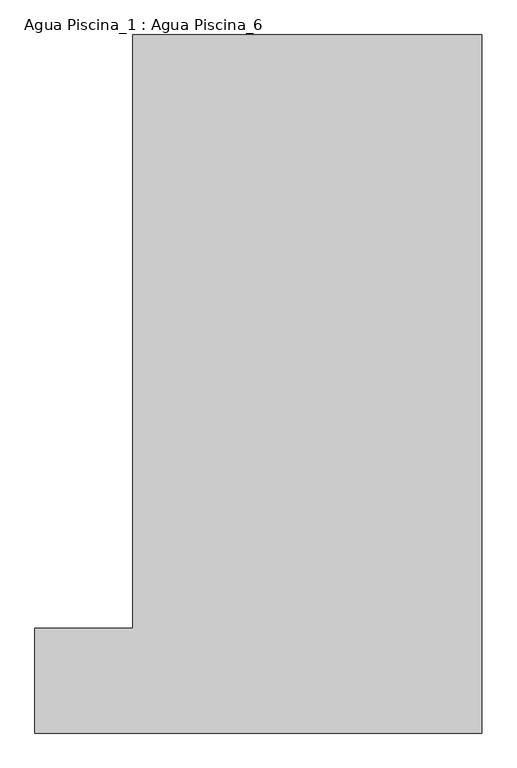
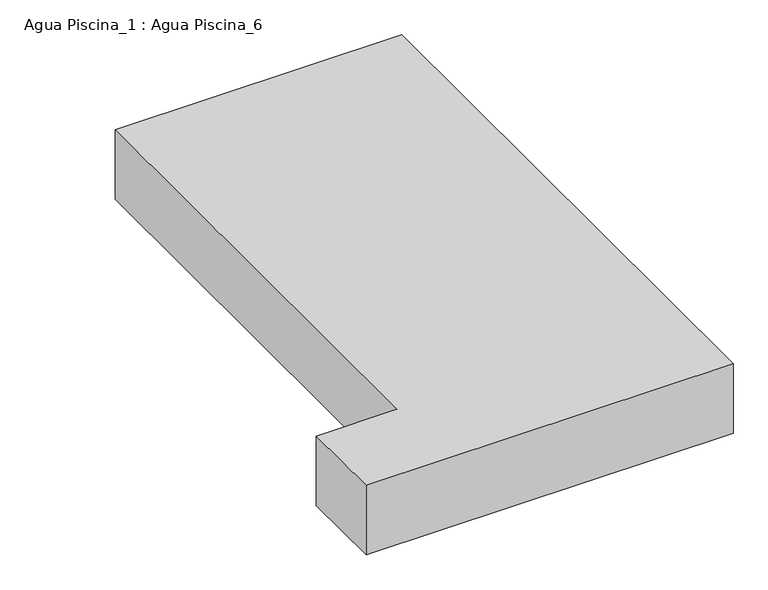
"""IFC4 building model written with IfcOpenShell, lengths in millimetres: proxy geometry, Agua Piscina_1 : Agua Piscina_6."""

from ifc_helpers import new_model, si_unit, frame, origin, place, context, project, spatial, polyline, outline, extrude, source, transform, mapped, element, save


def agua_piscina_1_agua_piscina_6_345880c8(model_context):
    return source(origin(), model_context, "Body", "SweptSolid", [
        extrude(outline(polyline([(11259.9746437, -6923.4421135), (12379.9746437, -6923.4421135), (12379.9746437, -123.4421135), (16379.9746437, -123.4421135), (16379.9746437, -8123.4421135), (11259.9746437, -8123.4421135), (11259.9746437, -6923.4421135)])), frame((0.0, 0.0, -1121.0503906), z_axis=(0.0, 0.0, 1.0), x_axis=(1.0, 0.0, 0.0)), (0.0, 0.0, 1.0), 1024.9836786),
    ])


if __name__ == "__main__":
    model = new_model("IFC4")
    model_context = context("Model", 3, world=origin())
    ifc_project = project(units=[si_unit("LENGTHUNIT", "METRE", prefix="MILLI")], contexts=[model_context])
    site = spatial("IfcSite", under=ifc_project)
    building = spatial("IfcBuilding", under=site)
    placement = place(None, origin())
    agua_piscina_1_agua_piscina_6_shape = agua_piscina_1_agua_piscina_6_345880c8(model_context)
    element("IfcBuildingElementProxy", 1, Name="Agua Piscina_1 : Agua Piscina_6", ObjectType="Agua Piscina_1 : Agua Piscina_6", at=placement, inside=building, context=model_context, shape_type="MappedRepresentation", body=[
        mapped(agua_piscina_1_agua_piscina_6_shape, transform((0.0, 0.0, 0.0), x_axis=(1.0, 0.0, 0.0), y_axis=(0.0, 1.0, 0.0), z_axis=(0.0, 0.0, 1.0))),
    ])
    save(model, "model.ifc")
